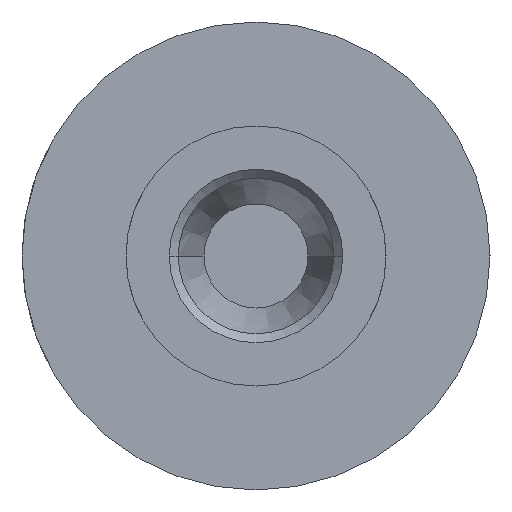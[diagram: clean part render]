
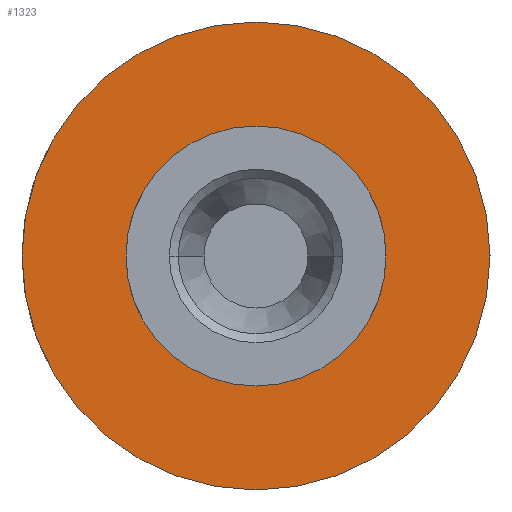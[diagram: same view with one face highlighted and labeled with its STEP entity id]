
A CAD part, left-side view. The second image highlights one B-rep face of the part: STEP entity #1323.
In plain terms, the highlighted planar face has unit normal (-1, 0, 0).
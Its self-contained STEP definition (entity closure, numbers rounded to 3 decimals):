
#62 = CARTESIAN_POINT ( 'NONE',  ( 38., -12.5, 0. ) ) ;
#83 = PLANE ( 'NONE',  #188 ) ;
#157 = CIRCLE ( 'NONE', #1162, 12.5 ) ;
#188 = AXIS2_PLACEMENT_3D ( 'NONE', #1855, #838, #1010 ) ;
#241 = AXIS2_PLACEMENT_3D ( 'NONE', #248, #1687, #1698 ) ;
#248 = CARTESIAN_POINT ( 'NONE',  ( 38., 0., 0. ) ) ;
#303 = ORIENTED_EDGE ( 'NONE', *, *, #1351, .T. ) ;
#319 = AXIS2_PLACEMENT_3D ( 'NONE', #869, #435, #897 ) ;
#335 = CIRCLE ( 'NONE', #241, 12.5 ) ;
#406 = EDGE_LOOP ( 'NONE', ( #303, #1329 ) ) ;
#409 = DIRECTION ( 'NONE',  ( 1., 0., 0. ) ) ;
#411 = CIRCLE ( 'NONE', #319, 22.5 ) ;
#416 = CARTESIAN_POINT ( 'NONE',  ( 38., 0., 0. ) ) ;
#435 = DIRECTION ( 'NONE',  ( 1., 0., 0. ) ) ;
#616 = EDGE_CURVE ( 'NONE', #1047, #617, #335, .T. ) ;
#617 = VERTEX_POINT ( 'NONE', #1364 ) ;
#700 = FACE_BOUND ( 'NONE', #406, .T. ) ;
#763 = ORIENTED_EDGE ( 'NONE', *, *, #1715, .F. ) ;
#838 = DIRECTION ( 'NONE',  ( -1., 0., 0. ) ) ;
#869 = CARTESIAN_POINT ( 'NONE',  ( 38., 0., 0. ) ) ;
#897 = DIRECTION ( 'NONE',  ( 0., 1., 0. ) ) ;
#921 = CIRCLE ( 'NONE', #1815, 22.5 ) ;
#1010 = DIRECTION ( 'NONE',  ( 0., 0., 1. ) ) ;
#1047 = VERTEX_POINT ( 'NONE', #62 ) ;
#1081 = CARTESIAN_POINT ( 'NONE',  ( 38., 22.5, 0. ) ) ;
#1118 = CARTESIAN_POINT ( 'NONE',  ( 38., -22.5, 0. ) ) ;
#1162 = AXIS2_PLACEMENT_3D ( 'NONE', #1714, #2039, #1730 ) ;
#1296 = EDGE_LOOP ( 'NONE', ( #763, #1494 ) ) ;
#1323 = ADVANCED_FACE ( 'NONE', ( #2034, #700 ), #83, .T. ) ;
#1329 = ORIENTED_EDGE ( 'NONE', *, *, #616, .T. ) ;
#1351 = EDGE_CURVE ( 'NONE', #617, #1047, #157, .T. ) ;
#1364 = CARTESIAN_POINT ( 'NONE',  ( 38., 12.5, 0. ) ) ;
#1427 = EDGE_CURVE ( 'NONE', #1540, #1882, #411, .T. ) ;
#1494 = ORIENTED_EDGE ( 'NONE', *, *, #1427, .F. ) ;
#1540 = VERTEX_POINT ( 'NONE', #1118 ) ;
#1687 = DIRECTION ( 'NONE',  ( 1., 0., 0. ) ) ;
#1698 = DIRECTION ( 'NONE',  ( 0., 1., 0. ) ) ;
#1714 = CARTESIAN_POINT ( 'NONE',  ( 38., 0., 0. ) ) ;
#1715 = EDGE_CURVE ( 'NONE', #1882, #1540, #921, .T. ) ;
#1730 = DIRECTION ( 'NONE',  ( 0., 1., 0. ) ) ;
#1815 = AXIS2_PLACEMENT_3D ( 'NONE', #416, #409, #1885 ) ;
#1855 = CARTESIAN_POINT ( 'NONE',  ( 38., 17.5, 0. ) ) ;
#1882 = VERTEX_POINT ( 'NONE', #1081 ) ;
#1885 = DIRECTION ( 'NONE',  ( 0., 1., 0. ) ) ;
#2034 = FACE_OUTER_BOUND ( 'NONE', #1296, .T. ) ;
#2039 = DIRECTION ( 'NONE',  ( 1., 0., 0. ) ) ;
